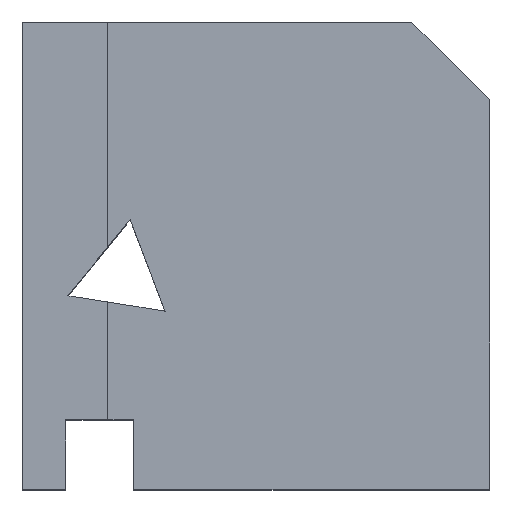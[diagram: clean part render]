
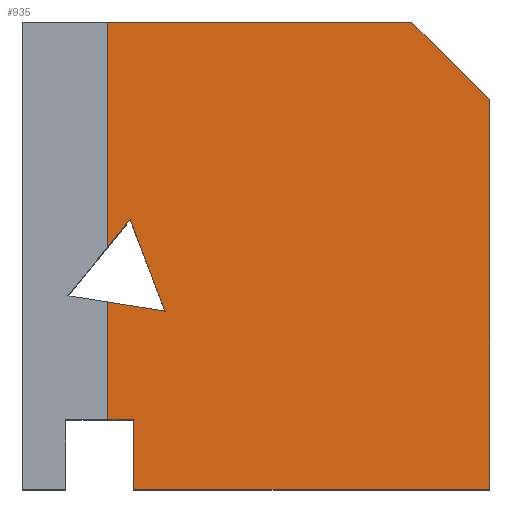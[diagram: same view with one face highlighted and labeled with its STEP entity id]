
A CAD part, top view. The second image highlights one B-rep face of the part: STEP entity #935.
In plain terms, the highlighted planar face has unit normal (0, 0, 1).
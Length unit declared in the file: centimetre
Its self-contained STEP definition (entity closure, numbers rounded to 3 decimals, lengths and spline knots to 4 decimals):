
#1 = VERTEX_POINT ( 'NONE', #886 ) ;
#5 = CARTESIAN_POINT ( 'NONE',  ( 182.8588, 0., 1000. ) ) ;
#9 = EDGE_CURVE ( 'NONE', #592, #1294, #155, .T. ) ;
#74 = EDGE_CURVE ( 'NONE', #353, #173, #1590, .T. ) ;
#77 = CARTESIAN_POINT ( 'NONE',  ( 182.8588, 400.7998, 1000. ) ) ;
#115 = EDGE_CURVE ( 'NONE', #254, #1423, #1557, .T. ) ;
#139 = ORIENTED_EDGE ( 'NONE', *, *, #9, .F. ) ;
#149 = LINE ( 'NONE', #728, #496 ) ;
#155 = LINE ( 'NONE', #5, #545 ) ;
#173 = VERTEX_POINT ( 'NONE', #1236 ) ;
#175 = DIRECTION ( 'NONE',  ( 0., 1., 0. ) ) ;
#181 = EDGE_CURVE ( 'NONE', #1423, #1508, #1100, .T. ) ;
#182 = VERTEX_POINT ( 'NONE', #671 ) ;
#229 = ORIENTED_EDGE ( 'NONE', *, *, #1883, .F. ) ;
#252 = CARTESIAN_POINT ( 'NONE',  ( 97.4496, 414.5841, 1000. ) ) ;
#254 = VERTEX_POINT ( 'NONE', #1863 ) ;
#267 = VECTOR ( 'NONE', #1090, 100. ) ;
#269 = CARTESIAN_POINT ( 'NONE',  ( 182.8588, 148.8116, 1000. ) ) ;
#270 = CARTESIAN_POINT ( 'NONE',  ( 305.4887, 381.0083, 1000. ) ) ;
#353 = VERTEX_POINT ( 'NONE', #574 ) ;
#382 = VECTOR ( 'NONE', #606, 100. ) ;
#400 = EDGE_CURVE ( 'NONE', #1508, #182, #1192, .T. ) ;
#407 = ORIENTED_EDGE ( 'NONE', *, *, #933, .T. ) ;
#494 = VECTOR ( 'NONE', #701, 100. ) ;
#496 = VECTOR ( 'NONE', #1736, 100. ) ;
#524 = DIRECTION ( 'NONE',  ( -0.707, 0.707, 0. ) ) ;
#534 = CARTESIAN_POINT ( 'NONE',  ( 0., 0., 1000. ) ) ;
#545 = VECTOR ( 'NONE', #175, 100. ) ;
#554 = VECTOR ( 'NONE', #1118, 100. ) ;
#560 = CARTESIAN_POINT ( 'NONE',  ( 230.5466, 577.9634, 1000. ) ) ;
#574 = CARTESIAN_POINT ( 'NONE',  ( 230.5466, 577.9634, 1000. ) ) ;
#592 = VERTEX_POINT ( 'NONE', #269 ) ;
#598 = ORIENTED_EDGE ( 'NONE', *, *, #74, .T. ) ;
#606 = DIRECTION ( 'NONE',  ( -1., 0., 0. ) ) ;
#643 = ORIENTED_EDGE ( 'NONE', *, *, #115, .T. ) ;
#663 = DIRECTION ( 'NONE',  ( 1., 0., 0. ) ) ;
#671 = CARTESIAN_POINT ( 'NONE',  ( 182.8588, 1000., 1000. ) ) ;
#701 = DIRECTION ( 'NONE',  ( 1., 0., 0. ) ) ;
#703 = VECTOR ( 'NONE', #995, 100. ) ;
#709 = ORIENTED_EDGE ( 'NONE', *, *, #1065, .T. ) ;
#728 = CARTESIAN_POINT ( 'NONE',  ( 238.0483, 0., 1000. ) ) ;
#752 = LINE ( 'NONE', #1037, #1441 ) ;
#756 = CARTESIAN_POINT ( 'NONE',  ( 238.0483, 0., 1000. ) ) ;
#764 = VECTOR ( 'NONE', #1829, 100. ) ;
#790 = VECTOR ( 'NONE', #524, 100. ) ;
#861 = ORIENTED_EDGE ( 'NONE', *, *, #400, .T. ) ;
#886 = CARTESIAN_POINT ( 'NONE',  ( 238.0483, 148.8116, 1000. ) ) ;
#897 = CARTESIAN_POINT ( 'NONE',  ( 0., 1000., 1000. ) ) ;
#933 = EDGE_CURVE ( 'NONE', #173, #1294, #1559, .T. ) ;
#935 = ADVANCED_FACE ( 'NONE', ( #1715 ), #1422, .T. ) ;
#980 = DIRECTION ( 'NONE',  ( -0.987, 0.159, 0. ) ) ;
#995 = DIRECTION ( 'NONE',  ( 0.632, 0.775, 0. ) ) ;
#1037 = CARTESIAN_POINT ( 'NONE',  ( 182.8588, 0., 1000. ) ) ;
#1065 = EDGE_CURVE ( 'NONE', #1, #1128, #149, .T. ) ;
#1086 = ORIENTED_EDGE ( 'NONE', *, *, #181, .T. ) ;
#1090 = DIRECTION ( 'NONE',  ( 0.356, -0.935, 0. ) ) ;
#1100 = LINE ( 'NONE', #1245, #790 ) ;
#1118 = DIRECTION ( 'NONE',  ( 1., 0., 0. ) ) ;
#1128 = VERTEX_POINT ( 'NONE', #756 ) ;
#1133 = CARTESIAN_POINT ( 'NONE',  ( 833.6979, 1000., 1000. ) ) ;
#1162 = LINE ( 'NONE', #560, #703 ) ;
#1192 = LINE ( 'NONE', #897, #382 ) ;
#1236 = CARTESIAN_POINT ( 'NONE',  ( 305.4887, 381.0083, 1000. ) ) ;
#1245 = CARTESIAN_POINT ( 'NONE',  ( 916.8489, 916.8489, 1000. ) ) ;
#1254 = CARTESIAN_POINT ( 'NONE',  ( 0., 0., 1000. ) ) ;
#1256 = LINE ( 'NONE', #534, #554 ) ;
#1294 = VERTEX_POINT ( 'NONE', #77 ) ;
#1296 = ORIENTED_EDGE ( 'NONE', *, *, #1385, .T. ) ;
#1315 = LINE ( 'NONE', #1615, #494 ) ;
#1323 = CARTESIAN_POINT ( 'NONE',  ( 1000., 833.6979, 1000. ) ) ;
#1365 = EDGE_LOOP ( 'NONE', ( #709, #1610, #643, #1086, #861, #229, #1657, #598, #407, #139, #1296 ) ) ;
#1385 = EDGE_CURVE ( 'NONE', #592, #1, #1315, .T. ) ;
#1422 = PLANE ( 'NONE',  #1831 ) ;
#1423 = VERTEX_POINT ( 'NONE', #1323 ) ;
#1441 = VECTOR ( 'NONE', #1491, 100. ) ;
#1451 = CARTESIAN_POINT ( 'NONE',  ( 182.8588, 519.4256, 1000. ) ) ;
#1491 = DIRECTION ( 'NONE',  ( 0., 1., 0. ) ) ;
#1508 = VERTEX_POINT ( 'NONE', #1133 ) ;
#1557 = LINE ( 'NONE', #1680, #764 ) ;
#1559 = LINE ( 'NONE', #252, #1591 ) ;
#1580 = EDGE_CURVE ( 'NONE', #1128, #254, #1256, .T. ) ;
#1590 = LINE ( 'NONE', #270, #267 ) ;
#1591 = VECTOR ( 'NONE', #980, 100. ) ;
#1610 = ORIENTED_EDGE ( 'NONE', *, *, #1580, .T. ) ;
#1615 = CARTESIAN_POINT ( 'NONE',  ( 92.8598, 148.8116, 1000. ) ) ;
#1657 = ORIENTED_EDGE ( 'NONE', *, *, #1819, .T. ) ;
#1680 = CARTESIAN_POINT ( 'NONE',  ( 1000., 1000., 1000. ) ) ;
#1702 = DIRECTION ( 'NONE',  ( 0., 0., 1. ) ) ;
#1715 = FACE_OUTER_BOUND ( 'NONE', #1365, .T. ) ;
#1736 = DIRECTION ( 'NONE',  ( 0., -1., 0. ) ) ;
#1777 = VERTEX_POINT ( 'NONE', #1451 ) ;
#1819 = EDGE_CURVE ( 'NONE', #1777, #353, #1162, .T. ) ;
#1829 = DIRECTION ( 'NONE',  ( 0., 1., 0. ) ) ;
#1831 = AXIS2_PLACEMENT_3D ( 'NONE', #1254, #1702, #663 ) ;
#1863 = CARTESIAN_POINT ( 'NONE',  ( 1000., 0., 1000. ) ) ;
#1883 = EDGE_CURVE ( 'NONE', #1777, #182, #752, .T. ) ;
